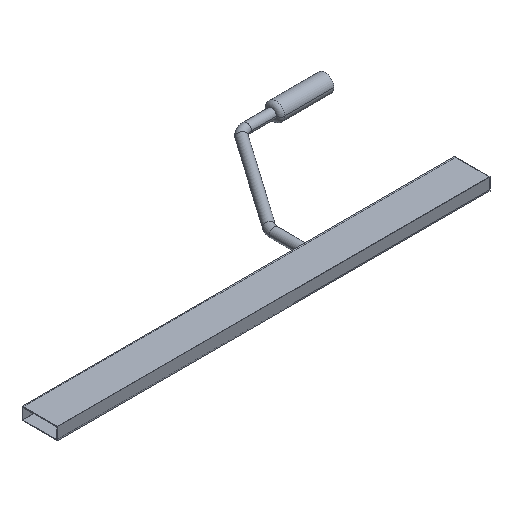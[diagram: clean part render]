
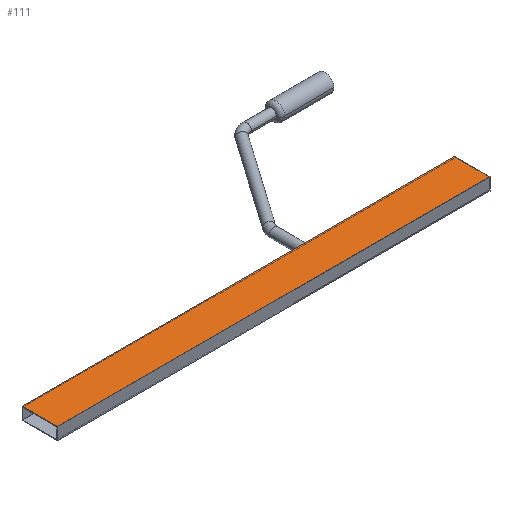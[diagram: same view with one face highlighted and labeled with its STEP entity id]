
A CAD part, isometric view. The second image highlights one B-rep face of the part: STEP entity #111.
In plain terms, the highlighted planar face has unit normal (0, 0, 1).
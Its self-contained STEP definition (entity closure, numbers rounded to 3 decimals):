
#56 = EDGE_CURVE ( 'NONE', #285, #298, #175, .T. ) ;
#69 = AXIS2_PLACEMENT_3D ( 'NONE', #443, #448, #449 ) ;
#85 = EDGE_CURVE ( 'NONE', #299, #285, #202, .T. ) ;
#87 = EDGE_CURVE ( 'NONE', #299, #311, #207, .T. ) ;
#95 = EDGE_CURVE ( 'NONE', #311, #298, #212, .T. ) ;
#111 = ADVANCED_FACE ( 'NONE', ( #222 ), #446, .T. ) ;
#169 = VECTOR ( 'NONE', #376, 1000. ) ;
#175 = LINE ( 'NONE', #370, #169 ) ;
#202 = LINE ( 'NONE', #418, #203 ) ;
#203 = VECTOR ( 'NONE', #419, 1000. ) ;
#207 = LINE ( 'NONE', #420, #208 ) ;
#208 = VECTOR ( 'NONE', #421, 1000. ) ;
#212 = LINE ( 'NONE', #427, #213 ) ;
#213 = VECTOR ( 'NONE', #428, 1000. ) ;
#222 = FACE_OUTER_BOUND ( 'NONE', #709, .T. ) ;
#285 = VERTEX_POINT ( 'NONE', #533 ) ;
#298 = VERTEX_POINT ( 'NONE', #544 ) ;
#299 = VERTEX_POINT ( 'NONE', #545 ) ;
#311 = VERTEX_POINT ( 'NONE', #557 ) ;
#370 = CARTESIAN_POINT ( 'NONE',  ( -239.853, -30., 5.25 ) ) ;
#376 = DIRECTION ( 'NONE',  ( 1., 0., 0. ) ) ;
#418 = CARTESIAN_POINT ( 'NONE',  ( -239.853, -30., 5.25 ) ) ;
#419 = DIRECTION ( 'NONE',  ( 0., -1., 0. ) ) ;
#420 = CARTESIAN_POINT ( 'NONE',  ( -239.853, 0., 5.25 ) ) ;
#421 = DIRECTION ( 'NONE',  ( 1., 0., 0. ) ) ;
#427 = CARTESIAN_POINT ( 'NONE',  ( 127.247, -30., 5.25 ) ) ;
#428 = DIRECTION ( 'NONE',  ( 0., -1., 0. ) ) ;
#443 = CARTESIAN_POINT ( 'NONE',  ( -239.853, -30., 5.25 ) ) ;
#446 = PLANE ( 'NONE',  #69 ) ;
#448 = DIRECTION ( 'NONE',  ( 0., 0., 1. ) ) ;
#449 = DIRECTION ( 'NONE',  ( 0., -1., 0. ) ) ;
#533 = CARTESIAN_POINT ( 'NONE',  ( -239.853, -30., 5.25 ) ) ;
#544 = CARTESIAN_POINT ( 'NONE',  ( 127.247, -30., 5.25 ) ) ;
#545 = CARTESIAN_POINT ( 'NONE',  ( -239.853, 0., 5.25 ) ) ;
#557 = CARTESIAN_POINT ( 'NONE',  ( 127.247, 0., 5.25 ) ) ;
#689 = ORIENTED_EDGE ( 'NONE', *, *, #56, .T. ) ;
#690 = ORIENTED_EDGE ( 'NONE', *, *, #85, .T. ) ;
#691 = ORIENTED_EDGE ( 'NONE', *, *, #87, .F. ) ;
#692 = ORIENTED_EDGE ( 'NONE', *, *, #95, .F. ) ;
#709 = EDGE_LOOP ( 'NONE', ( #692, #691, #690, #689 ) ) ;
